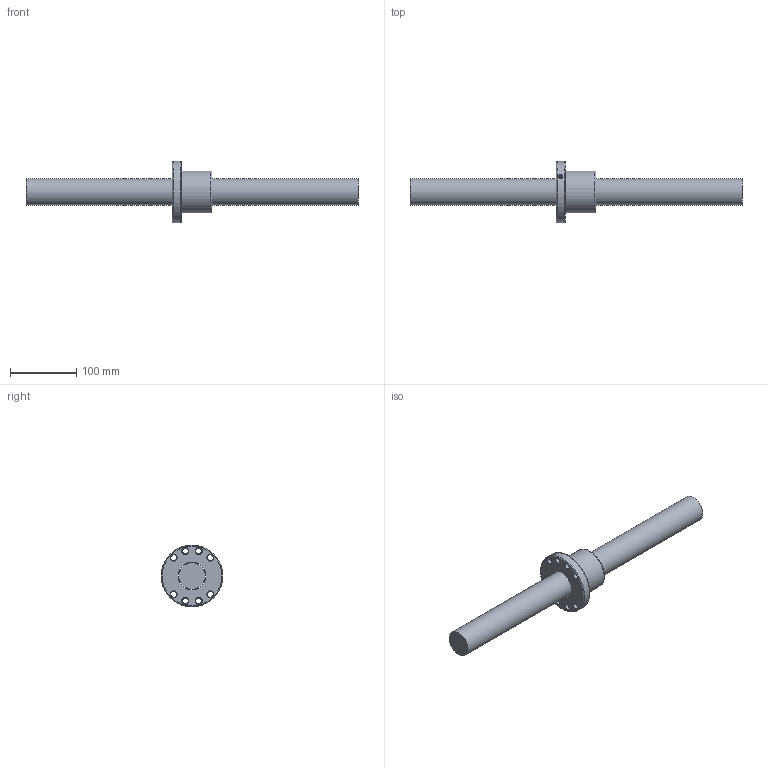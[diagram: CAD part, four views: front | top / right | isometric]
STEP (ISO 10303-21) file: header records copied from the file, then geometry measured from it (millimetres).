
FILE_DESCRIPTION (( 'STEP AP203' ), '1' );
FILE_NAME ('SFU04006N-4.step', '2024-05-14T06:01:54', ( '' ), ( '' ), 'SwSTEP 2.0', 'SolidWorks 2022', '' );
FILE_SCHEMA (( 'CONFIG_CONTROL_DESIGN' ));
Length unit declared in the file: millimetre
Products named in the file (1): SFU04006N-4
Bounding box: 500 x 93 x 93 mm (x, y, z)
Volume: 774692.4 mm3; surface area: 99072 mm2
Topology: 2 solids, 2 shells, 51 faces, 117 edges, 71 vertices
Faces by surface type: cylinder 20, cone 17, plane 6, bspline 5, torus 3
Full cylindrical faces by diameter (mm): 4 x1, 5 x6, 9 x8, 40 x1, 42.1 x1, 63 x1, 93 x1
Entity records: 2849 total; most frequent: CARTESIAN_POINT 1928, DIRECTION 176, ORIENTED_EDGE 118, EDGE_LOOP 100, AXIS2_PLACEMENT_3D 86, FACE_OUTER_BOUND 62, EDGE_CURVE 59, VERTEX_POINT 55
